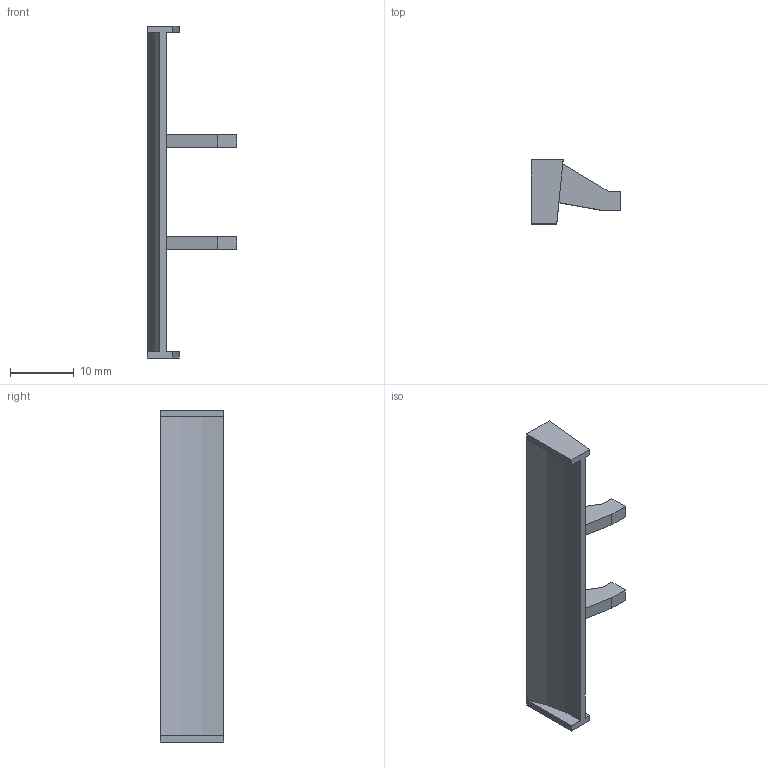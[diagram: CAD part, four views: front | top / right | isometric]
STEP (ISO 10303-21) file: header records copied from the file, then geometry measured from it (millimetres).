
FILE_DESCRIPTION(('Open CASCADE Model'),'2;1');
FILE_NAME('Open CASCADE Shape Model','2026-10-24T23:58:21',('Author'),( 'Open CASCADE'),'Open CASCADE STEP processor 7.9','Open CASCADE 7.9' ,'Unknown');
FILE_SCHEMA(('AUTOMOTIVE_DESIGN { 1 0 10303 214 1 1 1 1 }'));
Length unit declared in the file: millimetre
Products named in the file (1): Open CASCADE STEP translator 7.9 1
Bounding box: 14.03 x 10 x 52 mm (x, y, z)
Volume: 816.5 mm3; surface area: 1666.2 mm2
Topology: 1 solids, 1 shells, 28 faces, 76 edges, 50 vertices
Faces by surface type: plane 26, cylinder 2
Entity records: 1880 total; most frequent: CARTESIAN_POINT 333, DIRECTION 288, LINE 210, VECTOR 210, ORIENTED_EDGE 152, PCURVE 152, DEFINITIONAL_REPRESENTATION 152, EDGE_CURVE 76
